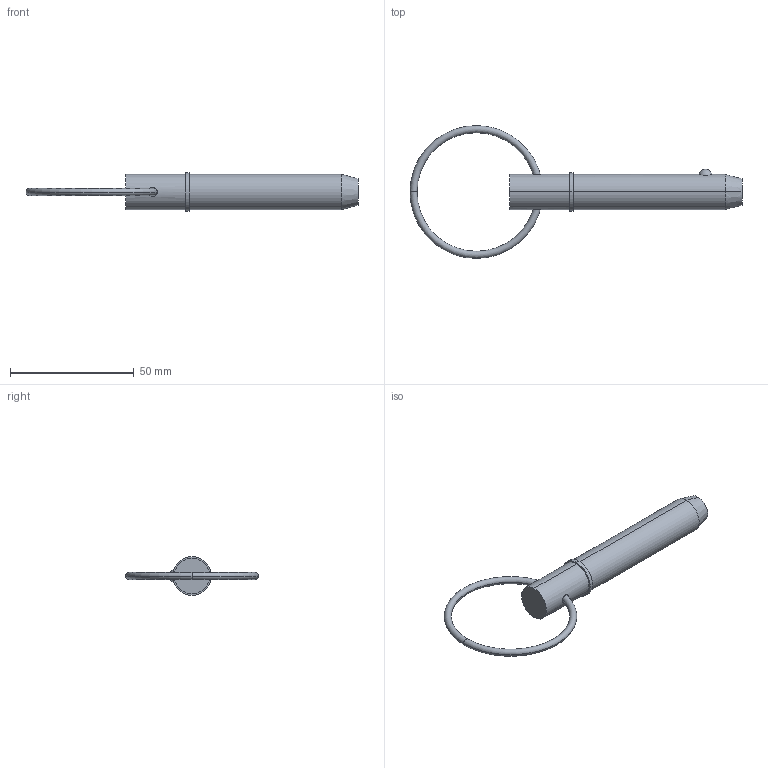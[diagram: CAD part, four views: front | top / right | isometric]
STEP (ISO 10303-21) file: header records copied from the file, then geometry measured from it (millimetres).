
FILE_DESCRIPTION (( 'STEP AP203' ), '1' );
FILE_NAME ('33016.W5620.step', '2024-11-07T11:10:44', ( '' ), ( '' ), 'SwSTEP 2.0', 'SolidWorks 2019', '' );
FILE_SCHEMA (( 'CONFIG_CONTROL_DESIGN' ));
Length unit declared in the file: millimetre
Products named in the file (3): 33016.W5620; Part1_33016.W5620; Part2_33016.W5620
Assembly tree (2 placements, depth 2):
  33016.W5620
    Part1_33016.W5620
    Part2_33016.W5620
Bounding box: 134.16 x 53.66 x 15.72 mm (x, y, z)
Volume: 15780.1 mm3; surface area: 6101.9 mm2
Topology: 2 solids, 2 shells, 22 faces, 43 edges, 26 vertices
Faces by surface type: torus 8, cylinder 6, plane 4, sphere 2, cone 2
Entity records: 1039 total; most frequent: CARTESIAN_POINT 262, DIRECTION 120, ORIENTED_EDGE 86, AXIS2_PLACEMENT_3D 56, EDGE_CURVE 43, CIRCLE 29, EDGE_LOOP 27, VERTEX_POINT 26
